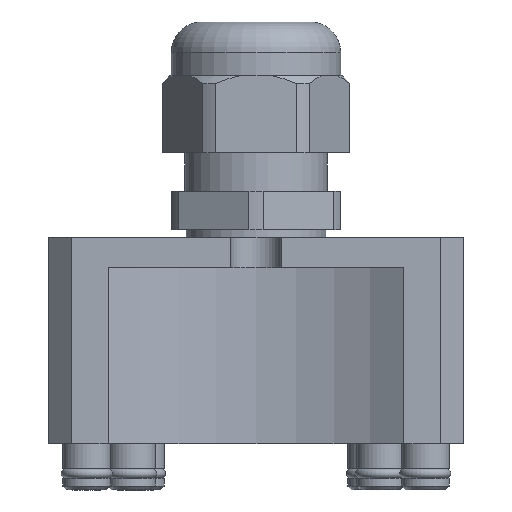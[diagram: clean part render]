
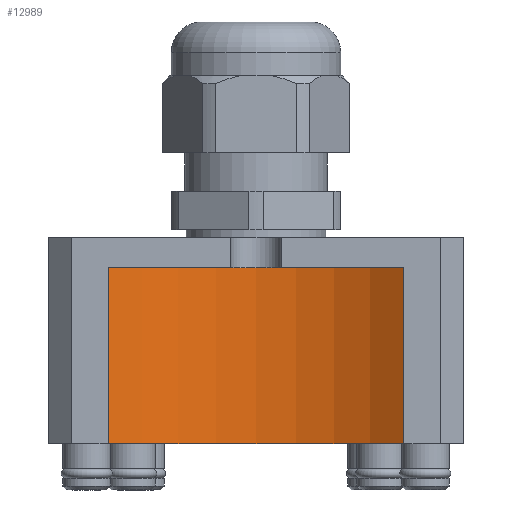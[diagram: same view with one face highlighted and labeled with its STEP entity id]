
A CAD part, front view. The second image highlights one B-rep face of the part: STEP entity #12989.
In plain terms, the highlighted cylindrical face has radius 31.6 mm (diameter 63.2 mm), a partial arc.
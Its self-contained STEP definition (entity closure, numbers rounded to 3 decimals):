
#12880=CARTESIAN_POINT('',(19.198,0.,-3.9));
#12881=VERTEX_POINT('',#12880);
#12888=CARTESIAN_POINT('',(19.198,0.,-26.8));
#12889=VERTEX_POINT('',#12888);
#12890=CARTESIAN_POINT('',(19.198,0.,-3.9));
#12891=DIRECTION('',(0.0,0.0,-1.0));
#12892=VECTOR('',#12891,22.9);
#12893=LINE('',#12890,#12892);
#12894=EDGE_CURVE('',#12881,#12889,#12893,.T.);
#12957=CARTESIAN_POINT('',(0.0,-25.1,-26.8));
#12958=DIRECTION('',(0.0,0.0,1.0));
#12959=DIRECTION('',(1.0,0.0,0.0));
#12960=AXIS2_PLACEMENT_3D('',#12957,#12958,#12959);
#12961=CYLINDRICAL_SURFACE('',#12960,31.6);
#12962=CARTESIAN_POINT('',(-19.198,0.,-26.8));
#12963=VERTEX_POINT('',#12962);
#12964=CARTESIAN_POINT('',(-19.198,0.,-3.9));
#12965=VERTEX_POINT('',#12964);
#12966=CARTESIAN_POINT('',(-19.198,0.,-26.8));
#12967=DIRECTION('',(0.0,0.0,1.0));
#12968=VECTOR('',#12967,22.9);
#12969=LINE('',#12966,#12968);
#12970=EDGE_CURVE('',#12963,#12965,#12969,.T.);
#12971=ORIENTED_EDGE('',*,*,#12970,.F.);
#12972=CARTESIAN_POINT('',(0.0,-25.1,-26.8));
#12973=DIRECTION('',(0.0,0.0,1.0));
#12974=DIRECTION('',(1.0,0.0,0.0));
#12975=AXIS2_PLACEMENT_3D('',#12972,#12973,#12974);
#12976=CIRCLE('',#12975,31.6);
#12977=EDGE_CURVE('',#12889,#12963,#12976,.T.);
#12978=ORIENTED_EDGE('',*,*,#12977,.F.);
#12979=ORIENTED_EDGE('',*,*,#12894,.F.);
#12980=CARTESIAN_POINT('',(0.0,-25.1,-3.9));
#12981=DIRECTION('',(0.0,0.0,-1.0));
#12982=DIRECTION('',(1.0,0.0,0.0));
#12983=AXIS2_PLACEMENT_3D('',#12980,#12981,#12982);
#12984=CIRCLE('',#12983,31.6);
#12985=EDGE_CURVE('',#12965,#12881,#12984,.T.);
#12986=ORIENTED_EDGE('',*,*,#12985,.F.);
#12987=EDGE_LOOP('',(#12971,#12978,#12979,#12986));
#12988=FACE_OUTER_BOUND('',#12987,.T.);
#12989=ADVANCED_FACE('',(#12988),#12961,.F.);
